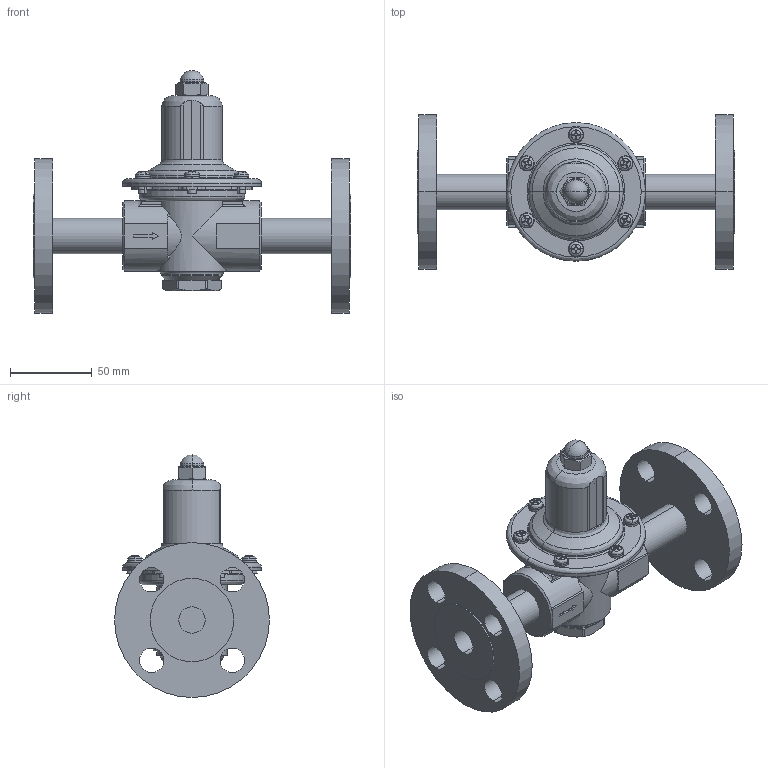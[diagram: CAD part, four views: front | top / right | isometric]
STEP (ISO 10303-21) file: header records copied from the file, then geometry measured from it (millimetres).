
FILE_DESCRIPTION( (''), '2;1');
FILE_NAME ('PC1276.4780.GD-43-10 (15A RF)_29595.stp','2026-01-15T14:26:03',(''),(''),'spGate 20.6.3 (****-****-****-****)','','');
FILE_SCHEMA (('AUTOMOTIVE_DESIGN'));
Length unit declared in the file: millimetre
Products named in the file (7): Assembly; ばねかばー; 袋ナット; 下部キャップ; なべこねじ(Ｍ5-10); スプリング座金; GD-41 15A
Assembly tree (16 placements, depth 2):
  Assembly
    ばねかばー
    袋ナット
    下部キャップ
    なべこねじ(Ｍ5-10)  x6
    スプリング座金  x6
    GD-41 15A
Bounding box: 195 x 95 x 149 mm (x, y, z)
Volume: 362419.4 mm3; surface area: 101541.7 mm2
Topology: 16 solids, 16 shells, 612 faces, 1544 edges, 985 vertices
Faces by surface type: plane 258, cylinder 224, bspline 114, sphere 16
Entity records: 24892 total; most frequent: CARTESIAN_POINT 5320, ORIENTED_EDGE 2280, DIRECTION 2086, COLOUR_RGB 1593, PRESENTATION_STYLE_ASSIGNMENT 1593, STYLED_ITEM 1593, EDGE_CURVE 1140, DRAUGHTING_PRE_DEFINED_CURVE_FONT 1140
